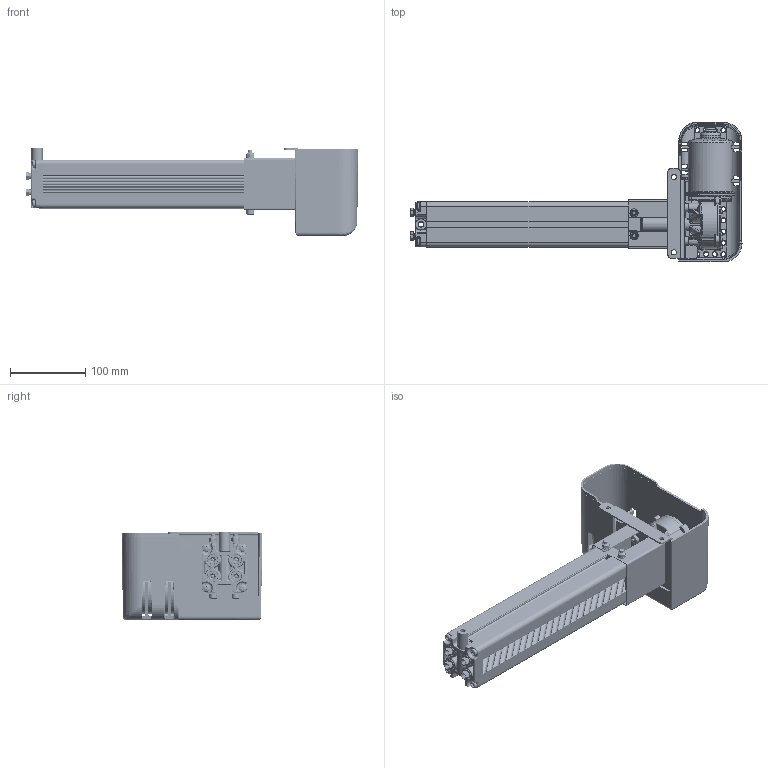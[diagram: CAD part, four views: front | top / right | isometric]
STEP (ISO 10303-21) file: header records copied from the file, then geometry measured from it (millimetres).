
FILE_DESCRIPTION(/* description */ ('Unknown'),/* implementation_level */ '2;1');
FILE_NAME(/* name */ '3X3.20043 Pumpe PF 4808 W mit Antrieb',/* time_stamp */ '2020-02-14T10:48:42+01:00',/* author */ ('Unknown'),/* organization */ ('Unknown'),/* preprocessor_version */ 'ST-DEVELOPER v16.7',/* originating_system */ 'DEX',/* authorisation */ $);
FILE_SCHEMA (('AUTOMOTIVE_DESIGN {1 0 10303 214 3 1 1}'));
Products named in the file (38): 103.20043; 115.10051_oa_0; 125.00126; 115.00008_oa_1; 142.00021; 125.00021; 115.10051_oa_2; 115.00008_oa_3; 142.00013; 115.10051_oa_4; 115.00008_oa_5; 115.10051_oa_6; 115.00008_oa_7; 142.00057; 125.00141; 115.00141; 126.00076; 122.00004; 119.00351; 126.00075; 112.0014X; 127.00315; Blechteil 2 PFD; Blechteil 1_Bügel PFD; 124.00090; Getriebe; Ring; Schraube; Stator; Abdeckplatte; Antriebswelle; 128.00051; 142.00018; 142.00019; 142.00228; 142.00131; 123.00029; 123.00048
Assembly tree (58 placements, depth 4):
  103.20043
    115.10051_oa_0
      125.00126
      115.00008_oa_1
      142.00021
      125.00021
    115.10051_oa_2
      125.00126
      115.00008_oa_3
      142.00021
      125.00021
    142.00013  x8
    115.10051_oa_4
      125.00126
      115.00008_oa_5
      142.00021
      125.00021
    115.10051_oa_6
      125.00126
      115.00008_oa_7
      142.00021
      125.00021
    142.00057
    125.00141
    115.00141
      126.00076
      122.00004
    119.00351
    126.00075
    112.0014X
      127.00315
        Blechteil 2 PFD
        Blechteil 1_Bügel PFD
      124.00090
        Getriebe
        Ring
        Schraube
        Stator
        Abdeckplatte
        Antriebswelle
      128.00051
      142.00018  x2
      142.00019  x2
      142.00228  x2
      142.00131  x3
      123.00029
    123.00048
Bounding box: 441.42 x 186.04 x 117.45 mm (x, y, z)
Volume: 872509.3 mm3; surface area: 521543.2 mm2
Topology: 46 solids, 48 shells, 4625 faces, 12053 edges, 7442 vertices
Faces by surface type: plane 1557, cylinder 1236, bspline 1115, cone 463, torus 202, sphere 52
Full cylindrical faces by diameter (mm): 2.5 x4, 3.2 x4, 3.5 x4, 3.9 x5, 4.1 x4, 4.2 x6, 4.4 x5, 4.5 x1, 4.917 x2, 5 x8, 5.5 x5, 6 x6, 6.4 x2, 6.8 x9, 6.917 x8, 7 x1, 8 x10, 8.5 x2, 9 x2, 9.5 x1, 9.8 x8, 10 x8, 10.3 x1, 10.32 x1, 10.4 x1, 11 x5, 13 x4, 14 x3, 14.4 x4, 15 x1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
Entity records: 195084 total; most frequent: CARTESIAN_POINT 110226, ORIENTED_EDGE 19072, DIRECTION 14166, EDGE_CURVE 9536, VERTEX_POINT 6256, AXIS2_PLACEMENT_3D 5216, FACE_BOUND 4448, EDGE_LOOP 4443
